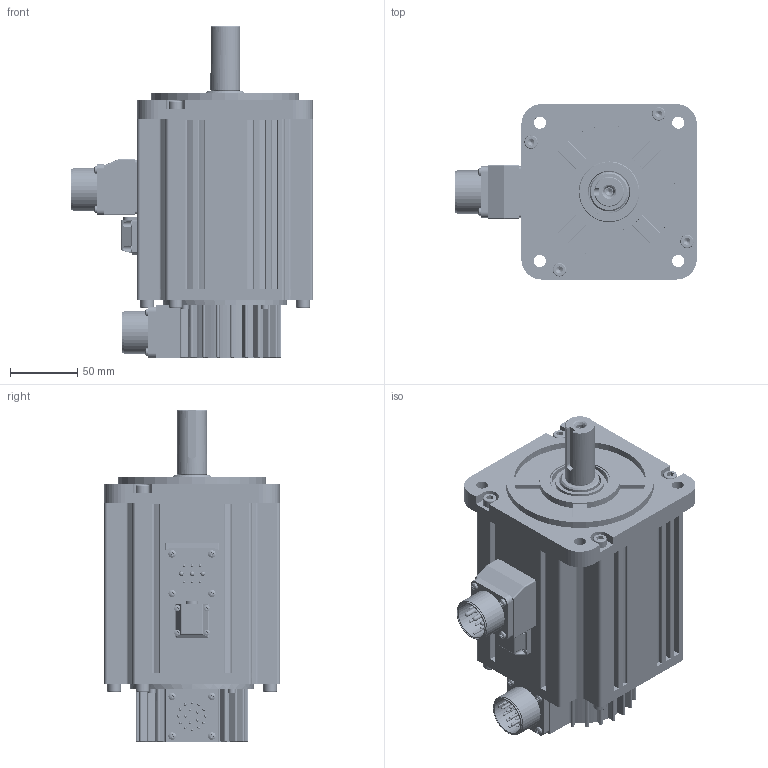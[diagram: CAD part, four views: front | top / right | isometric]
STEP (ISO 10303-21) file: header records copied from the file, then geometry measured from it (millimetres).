
FILE_DESCRIPTION((''),'2;1');
FILE_NAME('M-09E4K3A0_ASM','2019-06-13T',('zhouqs2'),(''),'CREO PARAMETRIC BY PTC INC, 2015480','CREO PARAMETRIC BY PTC INC, 2015480','');
FILE_SCHEMA(('CONFIG_CONTROL_DESIGN'));
Products named in the file (24): 80D2003201; 80Q0003401; 80S2000601; ASM0001_ASM; 80D5005801; 80D2003101; 80D2000901; 80G3000501; MJ01-8033; MJ01-8041; PRT0013; 80T5001501_ASM; 80G6000101; 80G3000201; PRT0012; MJ01-8042; 80S6000401; 001_ASM; MJ01-8038; 80S6002801; 80S5000101; MJ01-8035; ASM0002_ASM; M-09E4K3A0_ASM
Assembly tree (42 placements, depth 3):
  M-09E4K3A0_ASM
    ASM0001_ASM
      80D2003201
      80Q0003401
      80S2000601
    80D5005801
    80D2003101
    80T5001501_ASM
      80D2000901
      80G3000501
      MJ01-8033  x4
      MJ01-8041  x4
      PRT0013
    001_ASM
      80G6000101
      80G3000201
      PRT0012
      MJ01-8042  x4
      80S6000401
    MJ01-8038  x8
    ASM0002_ASM
      80S6002801
      80S5000101
      MJ01-8035  x4
Bounding box: 179 x 130 x 246.05 mm (x, y, z)
Volume: 655545.8 mm3; surface area: 344169.3 mm2
Topology: 37 solids, 71 shells, 6012 faces, 13265 edges, 7328 vertices
Faces by surface type: cone 2743, cylinder 2245, plane 872, sphere 126, torus 26
Entity records: 70474 total; most frequent: CARTESIAN_POINT 13591, DIRECTION 12846, ORIENTED_EDGE 11118, EDGE_CURVE 5617, AXIS2_PLACEMENT_3D 5019, VERTEX_POINT 3395, VECTOR 2808, LINE 2808
